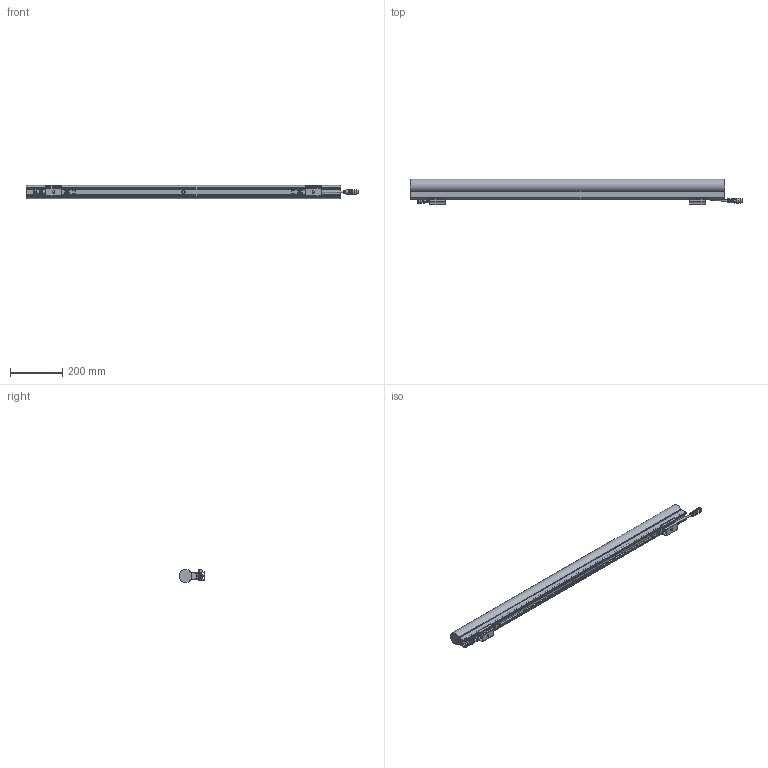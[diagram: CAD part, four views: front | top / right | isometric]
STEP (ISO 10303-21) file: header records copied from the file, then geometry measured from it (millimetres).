
FILE_DESCRIPTION (( 'STEP AP214' ), '1' );
FILE_NAME ('E series 2 Tube L1200.STEP', '2025-11-24T13:40:59', ( '' ), ( '' ), 'SwSTEP 2.0', 'SolidWorks 2025', '' );
FILE_SCHEMA (( 'AUTOMOTIVE_DESIGN' ));
Length unit declared in the file: millimetre
Products named in the file (12): Part1^E series 2; Part2^E series 2; Counter sunk screw torx_M3x16; Counter sunk screw torx_M2.5x16; M16 5p Female; M16 5p Male; E series 2 mounting clip top; E series 2 with dome cover body and bare config_Bare 1200mm; E series 2 mounting clip bottom; E series 2 with round cover body_1200mm; E series 2 Tube L1200; D & E Series 2 breathing valve
Assembly tree (27 placements, depth 2):
  E series 2 Tube L1200
    E series 2 with dome cover body and bare config_Bare 1200mm
    Counter sunk screw torx_M2.5x16  x12
    E series 2 mounting clip bottom  x2
    E series 2 mounting clip top  x2
    Counter sunk screw torx_M3x16  x4
    E series 2 with round cover body_1200mm
    M16 5p Female
    Part2^E series 2
    M16 5p Male
    Part1^E series 2
    D & E Series 2 breathing valve
Bounding box: 1265.55 x 98.61 x 49.96 mm (x, y, z)
Volume: 3128504.4 mm3; surface area: 384082.1 mm2
Topology: 29 solids, 32 shells, 1778 faces, 4424 edges, 2783 vertices
Faces by surface type: cylinder 740, plane 623, torus 141, bspline 130, cone 118, sphere 26
Full cylindrical faces by diameter (mm): 2.4 x2, 2.5 x12, 3 x4, 4.5 x12, 5.81 x4, 9.2 x1, 11.1 x1, 14.25 x1, 14.3 x1, 18 x1
Entity records: 61792 total; most frequent: CARTESIAN_POINT 20291, ORIENTED_EDGE 6990, DIRECTION 6601, EDGE_CURVE 3495, AXIS2_PLACEMENT_3D 2565, VERTEX_POINT 2207, EDGE_LOOP 1580, LINE 1471
